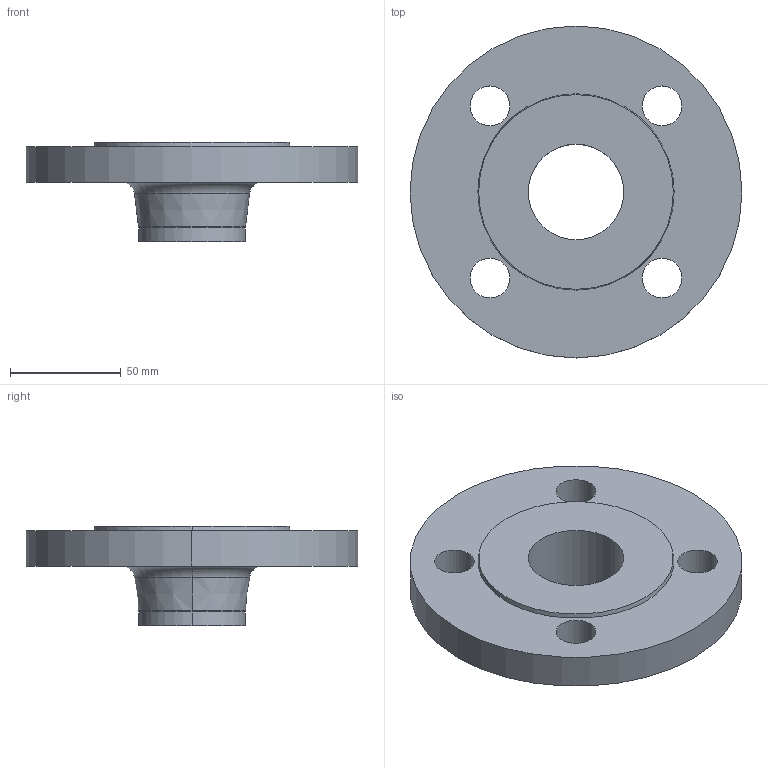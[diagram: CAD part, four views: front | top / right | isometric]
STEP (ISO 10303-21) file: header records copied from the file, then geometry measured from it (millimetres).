
FILE_DESCRIPTION (( 'STEP AP214' ), '1' );
FILE_NAME ('PN40 DN40 Type 11 - Type B Face.STEP', '2018-12-30T02:22:30', ( '' ), ( '' ), 'SwSTEP 2.0', 'SolidWorks 2019', '' );
FILE_SCHEMA (( 'AUTOMOTIVE_DESIGN' ));
Length unit declared in the file: millimetre
Products named in the file (1): PN40 DN40 Type 11 - Type B Face
Bounding box: 150 x 150 x 45 mm (x, y, z)
Volume: 267626 mm3; surface area: 51677.2 mm2
Topology: 1 solids, 1 shells, 26 faces, 60 edges, 38 vertices
Faces by surface type: cylinder 14, cone 4, torus 4, plane 4
Entity records: 812 total; most frequent: DIRECTION 156, CARTESIAN_POINT 125, ORIENTED_EDGE 120, AXIS2_PLACEMENT_3D 69, EDGE_CURVE 60, CIRCLE 42, VERTEX_POINT 38, EDGE_LOOP 38
